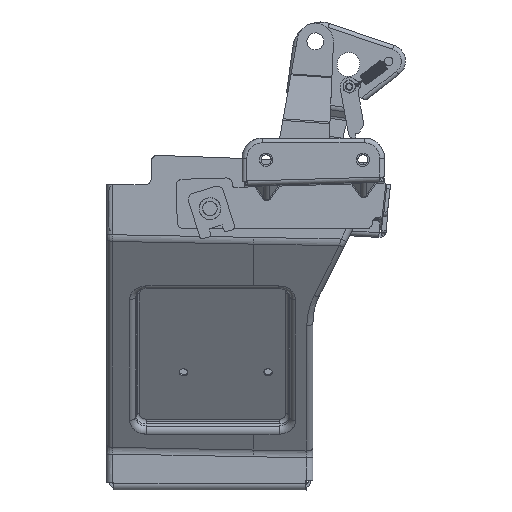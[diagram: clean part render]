
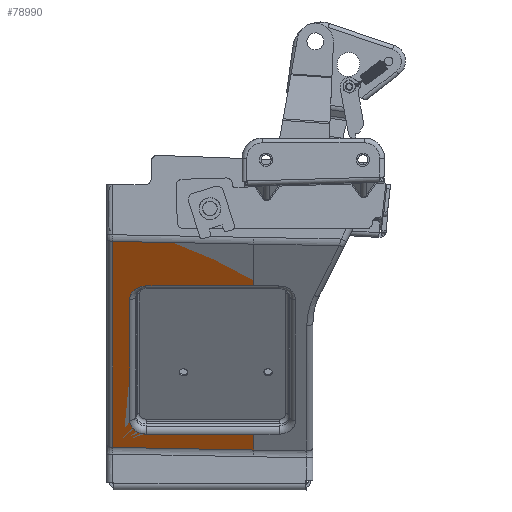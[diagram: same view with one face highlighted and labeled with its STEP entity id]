
A CAD part, front view. The second image highlights one B-rep face of the part: STEP entity #78990.
In plain terms, the highlighted planar face has unit normal (-0.011, -0.832, -0.555).
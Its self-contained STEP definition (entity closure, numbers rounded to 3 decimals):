
#78891=AXIS2_PLACEMENT_3D('Plane Axis2P3D',#78888,#78889,#78890) ;
#77794=CARTESIAN_POINT('Vertex',(-240.749,537.683,242.061)) ;
#77797=CARTESIAN_POINT('Line Origine',(-146.441,537.683,240.282)) ;
#77801=CARTESIAN_POINT('Vertex',(-124.,537.683,239.859)) ;
#78888=CARTESIAN_POINT('Axis2P3D Location',(-43.928,481.928,321.889)) ;
#78893=CARTESIAN_POINT('Line Origine',(-124.,549.246,222.533)) ;
#78897=CARTESIAN_POINT('Vertex',(-124.,560.809,205.207)) ;
#78900=CARTESIAN_POINT('Line Origine',(-240.749,594.511,156.911)) ;
#78904=CARTESIAN_POINT('Vertex',(-240.749,651.34,71.762)) ;
#78907=CARTESIAN_POINT('Line Origine',(-182.375,651.34,70.661)) ;
#78911=CARTESIAN_POINT('Vertex',(-124.,651.34,69.56)) ;
#78914=CARTESIAN_POINT('Line Origine',(-124.,646.946,76.144)) ;
#78918=CARTESIAN_POINT('Vertex',(-124.,642.552,82.728)) ;
#78921=CARTESIAN_POINT('Line Origine',(-168.449,643.111,82.728)) ;
#78925=CARTESIAN_POINT('Vertex',(-212.897,643.671,82.728)) ;
#78929=CARTESIAN_POINT('Control Point',(-226.616,636.228,94.139)) ;
#78930=CARTESIAN_POINT('Control Point',(-226.616,636.93,93.086)) ;
#78931=CARTESIAN_POINT('Control Point',(-226.469,637.631,92.033)) ;
#78932=CARTESIAN_POINT('Control Point',(-226.175,638.319,90.997)) ;
#78933=CARTESIAN_POINT('Control Point',(-225.303,639.641,89.)) ;
#78934=CARTESIAN_POINT('Control Point',(-223.906,640.812,87.219)) ;
#78935=CARTESIAN_POINT('Control Point',(-223.087,641.349,86.399)) ;
#78936=CARTESIAN_POINT('Control Point',(-221.235,642.304,84.932)) ;
#78937=CARTESIAN_POINT('Control Point',(-219.031,642.996,83.855)) ;
#78938=CARTESIAN_POINT('Control Point',(-217.859,643.268,83.425)) ;
#78939=CARTESIAN_POINT('Control Point',(-216.156,643.538,82.988)) ;
#78940=CARTESIAN_POINT('Control Point',(-214.403,643.651,82.786)) ;
#78941=CARTESIAN_POINT('Control Point',(-213.9,643.671,82.747)) ;
#78942=CARTESIAN_POINT('Control Point',(-213.398,643.677,82.728)) ;
#78943=CARTESIAN_POINT('Control Point',(-212.897,643.671,82.728)) ;
#78944=CARTESIAN_POINT('Vertex',(-226.616,636.228,94.139)) ;
#78947=CARTESIAN_POINT('Line Origine',(-226.616,602.919,144.047)) ;
#78951=CARTESIAN_POINT('Vertex',(-226.616,569.611,193.954)) ;
#78955=CARTESIAN_POINT('Control Point',(-213.088,561.931,205.207)) ;
#78956=CARTESIAN_POINT('Control Point',(-214.353,561.947,205.207)) ;
#78957=CARTESIAN_POINT('Control Point',(-215.618,562.044,205.085)) ;
#78958=CARTESIAN_POINT('Control Point',(-216.859,562.223,204.84)) ;
#78959=CARTESIAN_POINT('Control Point',(-219.247,562.737,204.115)) ;
#78960=CARTESIAN_POINT('Control Point',(-221.369,563.539,202.953)) ;
#78961=CARTESIAN_POINT('Control Point',(-222.343,564.006,202.271)) ;
#78962=CARTESIAN_POINT('Control Point',(-224.081,565.056,200.731)) ;
#78963=CARTESIAN_POINT('Control Point',(-225.345,566.296,198.898)) ;
#78964=CARTESIAN_POINT('Control Point',(-225.845,566.953,197.923)) ;
#78965=CARTESIAN_POINT('Control Point',(-226.336,567.884,196.537)) ;
#78966=CARTESIAN_POINT('Control Point',(-226.556,568.839,195.111)) ;
#78967=CARTESIAN_POINT('Control Point',(-226.596,569.097,194.724)) ;
#78968=CARTESIAN_POINT('Control Point',(-226.616,569.354,194.339)) ;
#78969=CARTESIAN_POINT('Control Point',(-226.616,569.611,193.954)) ;
#78970=CARTESIAN_POINT('Vertex',(-213.088,561.931,205.207)) ;
#78973=CARTESIAN_POINT('Line Origine',(-168.544,561.37,205.207)) ;
#77798=DIRECTION('Vector Direction',(1.,0.,-0.019)) ;
#78889=DIRECTION('Axis2P3D Direction',(-0.01,-0.832,-0.555)) ;
#78890=DIRECTION('Axis2P3D XDirection',(1.,-0.013,0.)) ;
#78894=DIRECTION('Vector Direction',(0.,0.555,-0.832)) ;
#78901=DIRECTION('Vector Direction',(0.,0.555,-0.832)) ;
#78908=DIRECTION('Vector Direction',(1.,0.,-0.019)) ;
#78915=DIRECTION('Vector Direction',(0.,0.555,-0.832)) ;
#78922=DIRECTION('Vector Direction',(-1.,0.013,0.)) ;
#78948=DIRECTION('Vector Direction',(0.,0.555,-0.832)) ;
#78974=DIRECTION('Vector Direction',(1.,-0.013,0.)) ;
#77799=VECTOR('Line Direction',#77798,1.) ;
#78895=VECTOR('Line Direction',#78894,1.) ;
#78902=VECTOR('Line Direction',#78901,1.) ;
#78909=VECTOR('Line Direction',#78908,1.) ;
#78916=VECTOR('Line Direction',#78915,1.) ;
#78923=VECTOR('Line Direction',#78922,1.) ;
#78949=VECTOR('Line Direction',#78948,1.) ;
#78975=VECTOR('Line Direction',#78974,1.) ;
#78979=ORIENTED_EDGE('',*,*,#78899,.F.) ;
#78980=ORIENTED_EDGE('',*,*,#77803,.F.) ;
#78981=ORIENTED_EDGE('',*,*,#78906,.T.) ;
#78982=ORIENTED_EDGE('',*,*,#78913,.F.) ;
#78983=ORIENTED_EDGE('',*,*,#78920,.F.) ;
#78984=ORIENTED_EDGE('',*,*,#78927,.F.) ;
#78985=ORIENTED_EDGE('',*,*,#78946,.F.) ;
#78986=ORIENTED_EDGE('',*,*,#78953,.F.) ;
#78987=ORIENTED_EDGE('',*,*,#78972,.F.) ;
#78988=ORIENTED_EDGE('',*,*,#78977,.F.) ;
#78990=ADVANCED_FACE('\X2\96F64EF651E04F554F53\X0\',(#78989),#78892,.T.) ;
#78928=B_SPLINE_CURVE_WITH_KNOTS('',5,(#78929,#78930,#78931,#78932,#78933,#78934,#78935,#78936,#78937,#78938,#78939,#78940,#78941,#78942,#78943),.UNSPECIFIED.,.F.,.U.,(6,3,3,3,6),(0.,8.969,17.937,26.906,30.458),.UNSPECIFIED.) ;
#78954=B_SPLINE_CURVE_WITH_KNOTS('',5,(#78955,#78956,#78957,#78958,#78959,#78960,#78961,#78962,#78963,#78964,#78965,#78966,#78967,#78968,#78969),.UNSPECIFIED.,.F.,.U.,(6,3,3,3,6),(0.,8.969,17.937,26.906,30.189),.UNSPECIFIED.) ;
#77803=EDGE_CURVE('',#77795,#77802,#77800,.T.) ;
#78899=EDGE_CURVE('',#77802,#78898,#78896,.T.) ;
#78906=EDGE_CURVE('',#77795,#78905,#78903,.T.) ;
#78913=EDGE_CURVE('',#78912,#78905,#78910,.F.) ;
#78920=EDGE_CURVE('',#78919,#78912,#78917,.T.) ;
#78927=EDGE_CURVE('',#78926,#78919,#78924,.F.) ;
#78946=EDGE_CURVE('',#78945,#78926,#78928,.T.) ;
#78953=EDGE_CURVE('',#78952,#78945,#78950,.T.) ;
#78972=EDGE_CURVE('',#78971,#78952,#78954,.T.) ;
#78977=EDGE_CURVE('',#78898,#78971,#78976,.F.) ;
#78978=EDGE_LOOP('',(#78979,#78980,#78981,#78982,#78983,#78984,#78985,#78986,#78987,#78988)) ;
#78989=FACE_OUTER_BOUND('',#78978,.T.) ;
#77800=LINE('Line',#77797,#77799) ;
#78896=LINE('Line',#78893,#78895) ;
#78903=LINE('Line',#78900,#78902) ;
#78910=LINE('Line',#78907,#78909) ;
#78917=LINE('Line',#78914,#78916) ;
#78924=LINE('Line',#78921,#78923) ;
#78950=LINE('Line',#78947,#78949) ;
#78976=LINE('Line',#78973,#78975) ;
#78892=PLANE('Plane',#78891) ;
#77795=VERTEX_POINT('',#77794) ;
#77802=VERTEX_POINT('',#77801) ;
#78898=VERTEX_POINT('',#78897) ;
#78905=VERTEX_POINT('',#78904) ;
#78912=VERTEX_POINT('',#78911) ;
#78919=VERTEX_POINT('',#78918) ;
#78926=VERTEX_POINT('',#78925) ;
#78945=VERTEX_POINT('',#78944) ;
#78952=VERTEX_POINT('',#78951) ;
#78971=VERTEX_POINT('',#78970) ;
